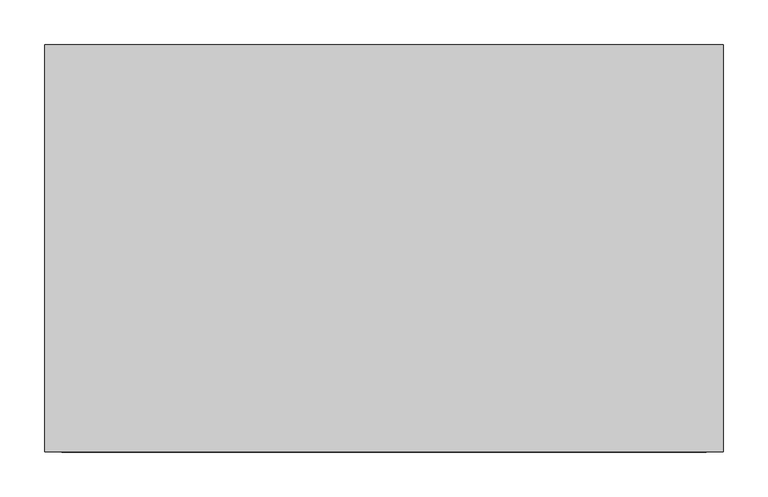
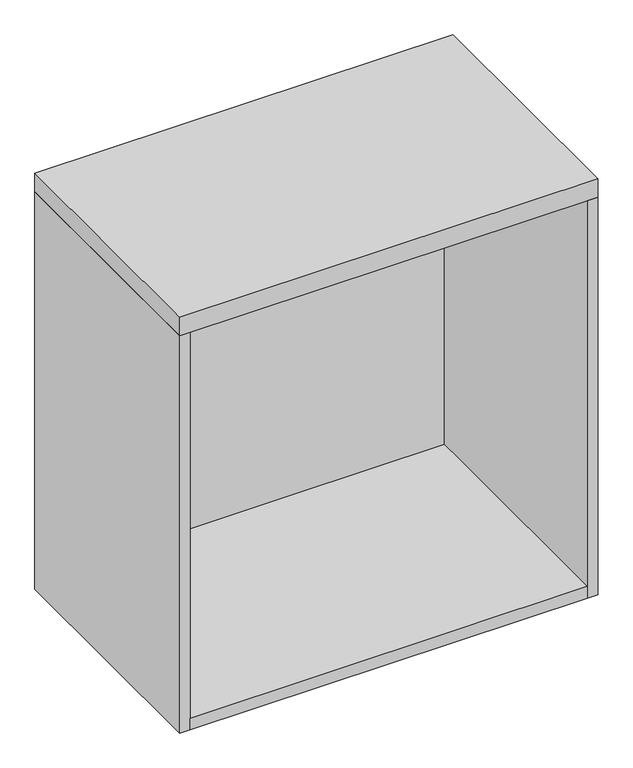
"""IFC4 building model written with IfcOpenShell, lengths in millimetres: furniture geometry, Steelcase - 900 Series - Storage - Overfile Cabinet - Flush Steel : Open - 30W x 31 1/2H."""

from ifc_helpers import new_model, si_unit, frame, origin, place, context, project, spatial, polyline, outline, extrude, source, transform, mapped, element, save


def furniture_b8ef1340(model_context):
    return source(origin(), model_context, "Body", "SweptSolid", [
        extrude(outline(polyline([(742.6960184, -6.3500002), (742.6960184, -457.2), (19.3039998, -457.2), (19.3039998, -6.3500002), (742.6960184, -6.3500002)])), frame((0.0, 0.0, 1246.378), z_axis=(0.0, 0.0, 1.0), x_axis=(1.0, 0.0, 0.0)), (0.0, 0.0, 1.0), 22.2249516),
        extrude(outline(polyline([(762.0, 0.0), (762.0, -457.2), (0.0, -457.2), (0.0, 0.0), (762.0, 0.0)])), frame((0.0, 0.0, 2011.5529516), z_axis=(0.0, 0.0, 1.0), x_axis=(1.0, 0.0, 0.0)), (0.0, 0.0, 1.0), 34.9250484),
        extrude(outline(polyline([(742.6960184, -6.3500002), (19.3039998, -6.3500002), (19.3039998, -457.2), (0.0, -457.2), (0.0, 0.0), (762.0, 0.0), (762.0, -457.2), (742.6960184, -457.2), (742.6960184, -6.3500002)])), frame((0.0, 0.0, 1246.378), z_axis=(0.0, 0.0, 1.0), x_axis=(1.0, 0.0, 0.0)), (0.0, 0.0, 1.0), 765.1749516),
    ])


if __name__ == "__main__":
    model = new_model("IFC4")
    model_context = context("Model", 3, world=origin())
    ifc_project = project(units=[si_unit("LENGTHUNIT", "METRE", prefix="MILLI")], contexts=[model_context])
    site = spatial("IfcSite", under=ifc_project)
    building = spatial("IfcBuilding", under=site)
    placement = place(None, origin())
    furniture_shape = furniture_b8ef1340(model_context)
    element("IfcFurniture", 1, ObjectType="Steelcase - 900 Series - Storage - Overfile Cabinet - Flush Steel : Open - 30W x 31 1/2H", at=placement, inside=building, context=model_context, shape_type="MappedRepresentation", body=[
        mapped(furniture_shape, transform((0.0, 0.0, 0.0), x_axis=(1.0, 0.0, 0.0), y_axis=(0.0, 1.0, 0.0), z_axis=(0.0, 0.0, 1.0))),
    ])
    save(model, "model.ifc")
